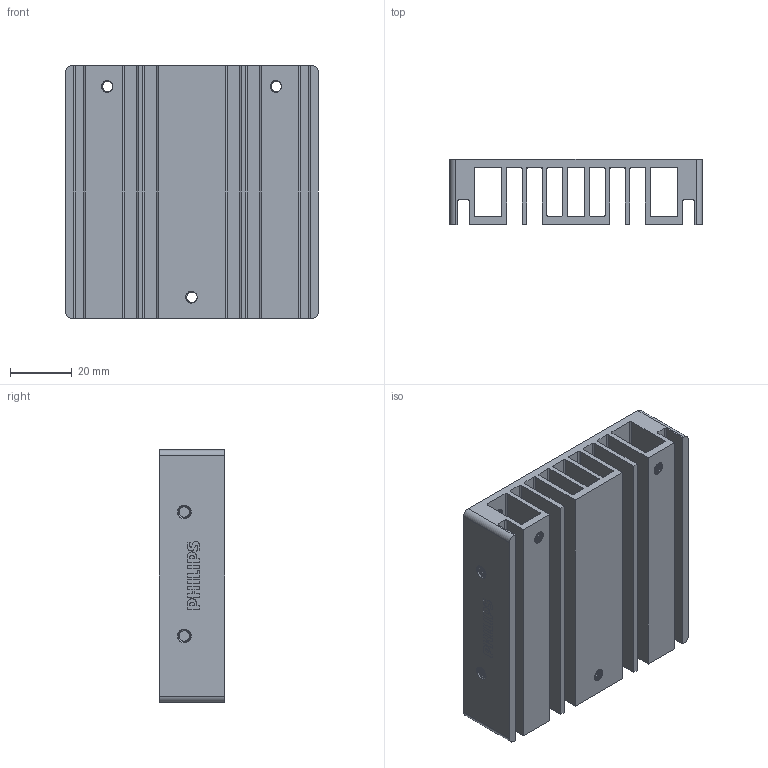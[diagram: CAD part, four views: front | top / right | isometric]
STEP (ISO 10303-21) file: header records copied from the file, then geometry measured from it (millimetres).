
FILE_DESCRIPTION(/* description */ (''),/* implementation_level */ '2;1');
FILE_NAME(/* name */ 'Heat Sink.stp',/* time_stamp */ '2016-03-03T13:11:07+08:00',/* author */ (''),/* organization */ (''),/* preprocessor_version */ 'ST-DEVELOPER v11',/* originating_system */ 'SIEMENS PLM Software NX 7.5',/* authorisation */ '');
FILE_SCHEMA (('CONFIG_CONTROL_DESIGN'));
Products named in the file (1): 310096F8fx6z
Bounding box: 81.5 x 20.98 x 81.5 mm (x, y, z)
Volume: 59730.7 mm3; surface area: 51330.7 mm2
Topology: 1 solids, 1 shells, 421 faces, 1233 edges, 823 vertices
Faces by surface type: plane 324, cylinder 73, bspline 20, cone 4
Full cylindrical faces by diameter (mm): 3.4 x18
Entity records: 42824 total; most frequent: CARTESIAN_POINT 32190, ORIENTED_EDGE 2318, DIRECTION 1958, EDGE_CURVE 1159, LINE 968, VECTOR 968, VERTEX_POINT 777, AXIS2_PLACEMENT_3D 495
